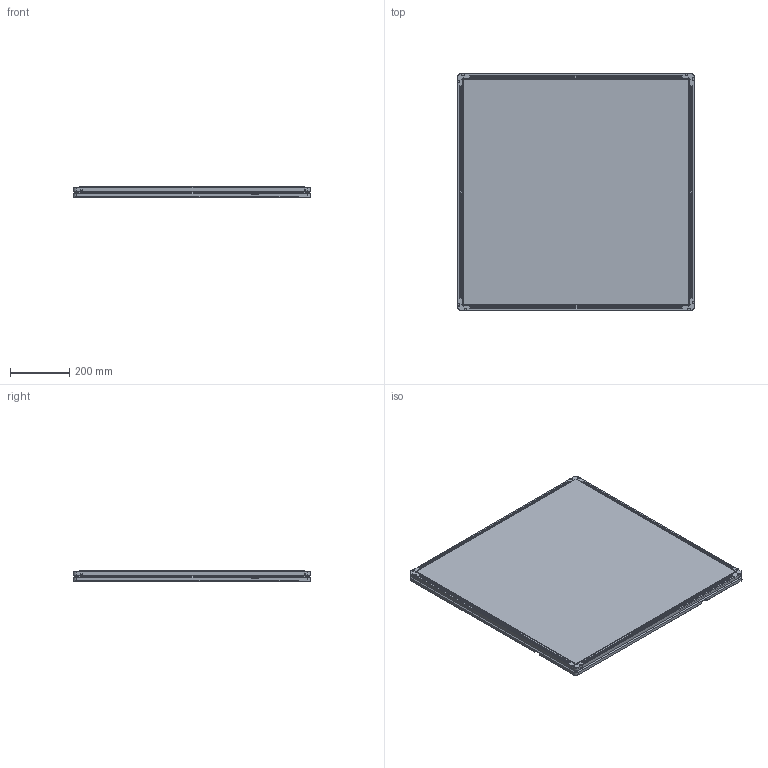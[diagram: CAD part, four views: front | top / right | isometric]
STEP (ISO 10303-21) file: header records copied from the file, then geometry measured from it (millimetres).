
FILE_DESCRIPTION(/* description */ (''),/* implementation_level */ '2;1');
FILE_NAME(/* name */ 'C:\Marketing\01_Versamove-SPU_STEP-Dateien-Homepage\Versamove plus\Werkstückträger_WT2010_800x800.stp',/* time_stamp */ '2016-12-22T16:03:02+01:00',/* author */ ('herbert.engels'),/* organization */ (''),/* preprocessor_version */ 'ST-DEVELOPER v15.6',/* originating_system */ 'Autodesk Inventor 2015',/* authorisation */ '');
FILE_SCHEMA (('CONFIG_CONTROL_DESIGN'));
Length unit declared in the file: millimetre
Products named in the file (1): Werkstückträger_WT2010_800x800
Bounding box: 802.5 x 802.5 x 35 mm (x, y, z)
Volume: 7868302 mm3; surface area: 1596562.6 mm2
Topology: 1 solids, 1 shells, 307 faces, 796 edges, 504 vertices
Faces by surface type: plane 231, cylinder 44, cone 28, torus 4
Full cylindrical faces by diameter (mm): 5 x4, 8 x8, 13 x4
Entity records: 9446 total; most frequent: CARTESIAN_POINT 1652, ORIENTED_EDGE 1528, DIRECTION 1468, EDGE_CURVE 764, LINE 612, VECTOR 612, VERTEX_POINT 492, AXIS2_PLACEMENT_3D 428
